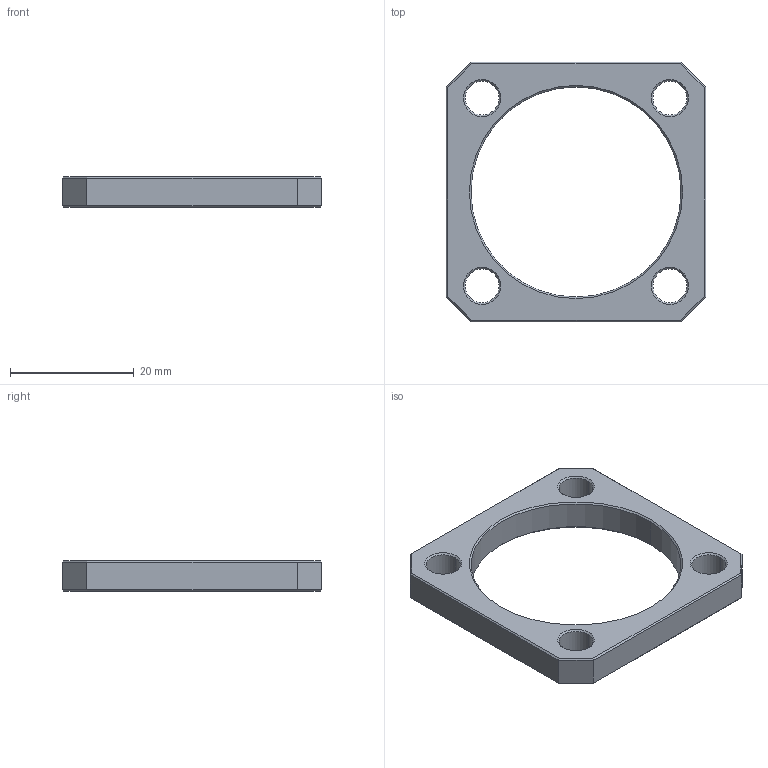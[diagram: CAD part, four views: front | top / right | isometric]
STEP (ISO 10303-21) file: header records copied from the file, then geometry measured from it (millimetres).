
FILE_DESCRIPTION (( 'STEP AP214' ), '1' );
FILE_NAME ('MAM12012 -XA- Space douille plateau.STEP', '2024-12-18T14:15:47', ( '' ), ( '' ), 'SwSTEP 2.0', 'SolidWorks 2019', '' );
FILE_SCHEMA (( 'AUTOMOTIVE_DESIGN' ));
Length unit declared in the file: millimetre
Products named in the file (1): MAM12012 -XA- Space douille plateau
Bounding box: 42 x 42 x 5 mm (x, y, z)
Volume: 3624.2 mm3; surface area: 3033.5 mm2
Topology: 1 solids, 1 shells, 56 faces, 126 edges, 72 vertices
Faces by surface type: plane 26, cone 20, cylinder 10
Entity records: 1576 total; most frequent: DIRECTION 280, CARTESIAN_POINT 255, ORIENTED_EDGE 252, EDGE_CURVE 126, AXIS2_PLACEMENT_3D 97, VECTOR 86, LINE 86, VERTEX_POINT 72
